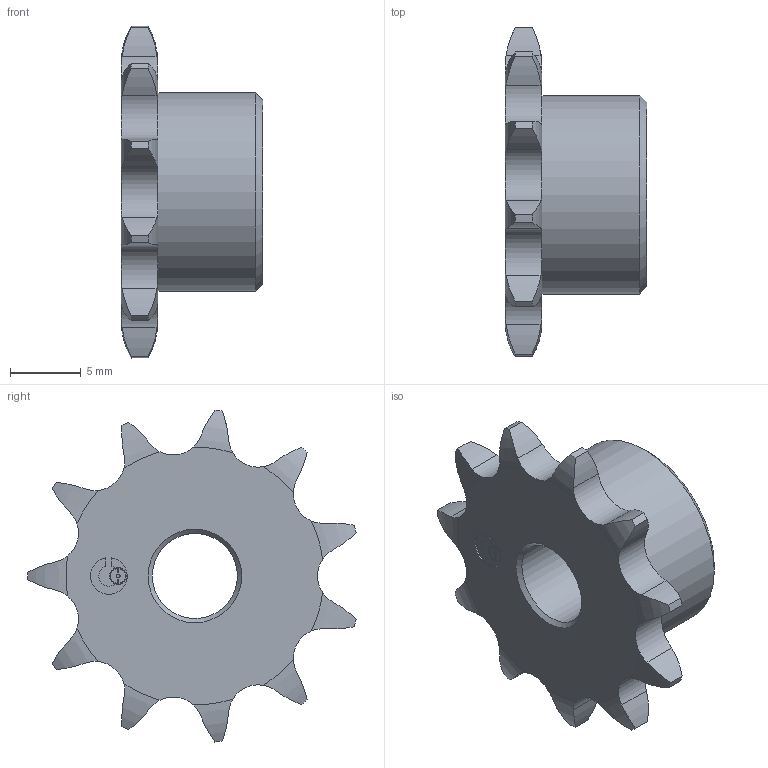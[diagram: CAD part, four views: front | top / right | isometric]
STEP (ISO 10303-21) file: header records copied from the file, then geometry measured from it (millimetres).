
FILE_DESCRIPTION(/* description */ (''),/* implementation_level */ '2;1');
FILE_NAME(/* name */ 'W:\DISEGNI LUCA SALVATAGGIO LOCALE\disegni Fabio Colombo\DISEGNI CATALOGO PIGNONI\PIGNONI ISO606\02- DIN8187 6x2.8\DIN8187 6x2.8 -3D\10106011.stp',/* time_stamp */ '2022-11-11T14:00:47+01:00',/* author */ ('luca.leone'),/* organization */ (''),/* preprocessor_version */ 'ST-DEVELOPER v18.1',/* originating_system */ 'Autodesk Inventor 2022',/* authorisation */ '');
FILE_SCHEMA (('AUTOMOTIVE_DESIGN { 1 0 10303 214 3 1 1 }'));
Length unit declared in the file: millimetre
Products named in the file (1): 10106011
Bounding box: 10 x 23.19 x 23.43 mm (x, y, z)
Volume: 1615.1 mm3; surface area: 1266.4 mm2
Topology: 1 solids, 1 shells, 166 faces, 475 edges, 315 vertices
Faces by surface type: cylinder 88, plane 53, torus 22, cone 3
Full cylindrical faces by diameter (mm): 0.215 x1, 6 x1, 14 x1
Entity records: 5743 total; most frequent: CARTESIAN_POINT 1373, ORIENTED_EDGE 950, DIRECTION 878, EDGE_CURVE 475, AXIS2_PLACEMENT_3D 324, VERTEX_POINT 315, LINE 230, VECTOR 230
